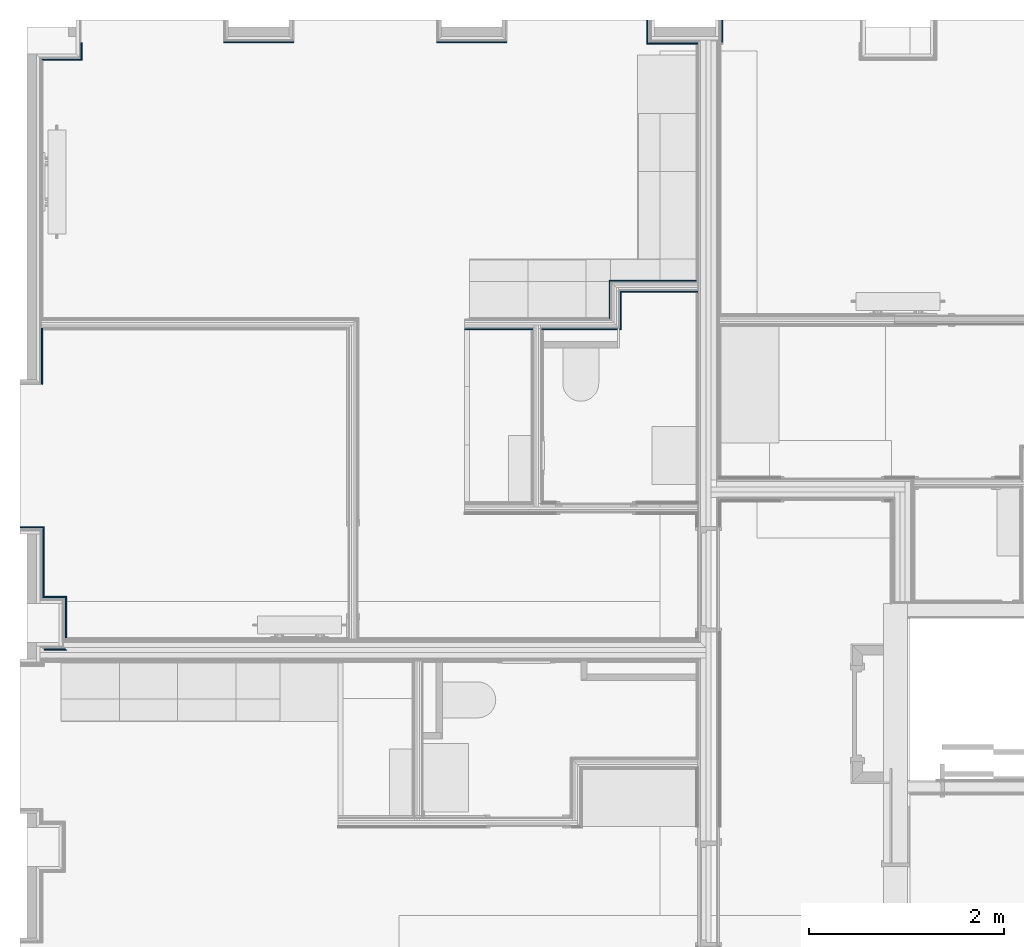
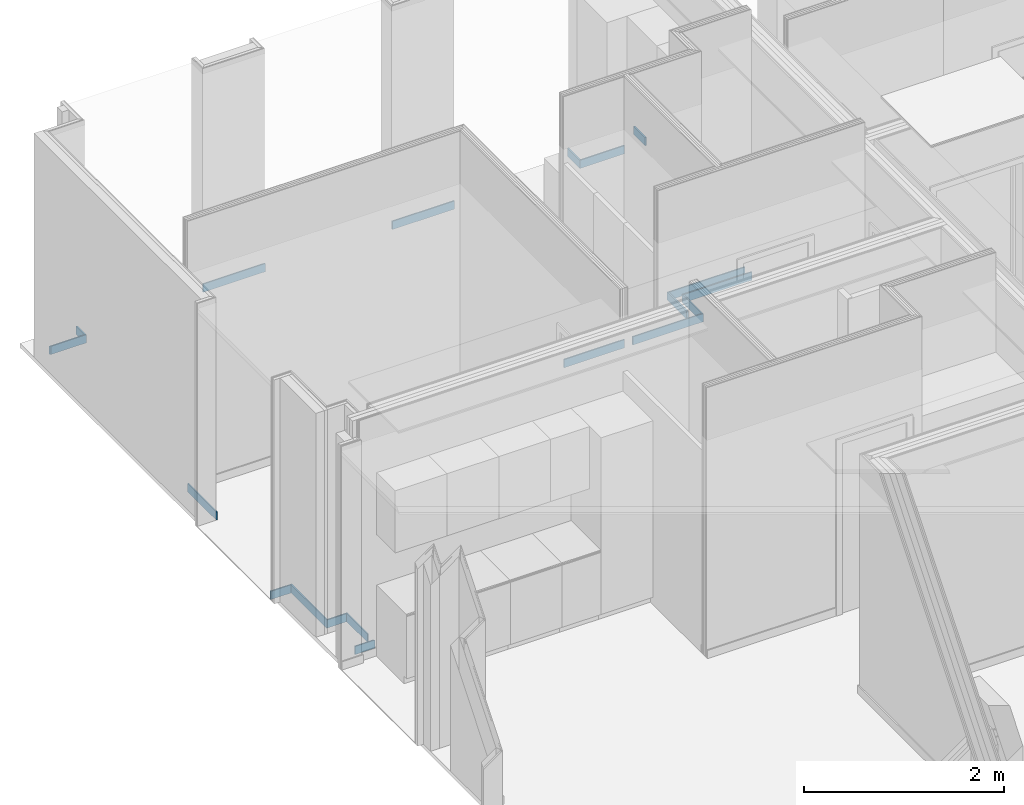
# One storey, part 34 of 65: 19 building element parts, 16 elements without a shape of their own.
"""IFC2X3 building model written with IfcOpenShell, lengths in metres."""

from ifc_helpers import new_model, entity, si_unit, converted_unit, derived_unit, money_unit, direction, frame, frame_2d, origin_with_axes, place, context, subcontext, project, spatial, polyline, rectangle, outline, extrude, material, type_object, element, aggregate, save


model = new_model("IFC2X3")

# Units and contexts
model_context = context("Model", 3, precision=1e-05, world=origin_with_axes(), true_north=direction((0.0, 1.0)))
body_context = subcontext(model_context, "Body", "Model", "MODEL_VIEW", scale=1.0)
ifc_project = project(units=[si_unit("LENGTHUNIT", "METRE"), si_unit("AREAUNIT", "SQUARE_METRE"), si_unit("VOLUMEUNIT", "CUBIC_METRE"), si_unit("ABSORBEDDOSEUNIT", "GRAY"), si_unit("AMOUNTOFSUBSTANCEUNIT", "MOLE"), si_unit("DOSEEQUIVALENTUNIT", "SIEVERT"), si_unit("ELECTRICCAPACITANCEUNIT", "FARAD"), si_unit("ELECTRICCHARGEUNIT", "COULOMB"), si_unit("ELECTRICCONDUCTANCEUNIT", "SIEMENS"), si_unit("ELECTRICCURRENTUNIT", "AMPERE"), si_unit("ELECTRICRESISTANCEUNIT", "OHM"), si_unit("ELECTRICVOLTAGEUNIT", "VOLT"), si_unit("ENERGYUNIT", "JOULE"), si_unit("FORCEUNIT", "NEWTON"), si_unit("FREQUENCYUNIT", "HERTZ"), si_unit("ILLUMINANCEUNIT", "LUX"), si_unit("INDUCTANCEUNIT", "HENRY"), si_unit("LUMINOUSFLUXUNIT", "LUMEN"), si_unit("LUMINOUSINTENSITYUNIT", "CANDELA"), si_unit("MAGNETICFLUXDENSITYUNIT", "TESLA"), si_unit("MAGNETICFLUXUNIT", "WEBER"), si_unit("MASSUNIT", "GRAM"), converted_unit("PLANEANGLEUNIT", "degree", entity("IfcReal", 0.0174532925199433), si_unit("PLANEANGLEUNIT", "RADIAN"), dimensions=[0, 0, 0, 0, 0, 0, 0]), si_unit("POWERUNIT", "WATT"), si_unit("PRESSUREUNIT", "PASCAL"), si_unit("RADIOACTIVITYUNIT", "BECQUEREL"), si_unit("SOLIDANGLEUNIT", "STERADIAN"), si_unit("THERMODYNAMICTEMPERATUREUNIT", "KELVIN"), si_unit("TIMEUNIT", "SECOND"), derived_unit("ACCELERATIONUNIT", [(si_unit("LENGTHUNIT", "METRE"), 1), (si_unit("TIMEUNIT", "SECOND"), -2)]), derived_unit("ANGULARVELOCITYUNIT", [(converted_unit("PLANEANGLEUNIT", "degree", entity("IfcReal", 0.0174532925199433), si_unit("PLANEANGLEUNIT", "RADIAN"), dimensions=[0, 0, 0, 0, 0, 0, 0]), 1), (si_unit("TIMEUNIT", "SECOND"), -1)]), derived_unit("CURVATUREUNIT", [(converted_unit("PLANEANGLEUNIT", "degree", entity("IfcReal", 0.0174532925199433), si_unit("PLANEANGLEUNIT", "RADIAN"), dimensions=[0, 0, 0, 0, 0, 0, 0]), 1), (si_unit("LENGTHUNIT", "METRE"), -1)]), derived_unit("DYNAMICVISCOSITYUNIT", [(si_unit("PRESSUREUNIT", "PASCAL"), 1), (si_unit("TIMEUNIT", "SECOND"), 1)]), derived_unit("HEATFLUXDENSITYUNIT", [(si_unit("POWERUNIT", "WATT"), 1), (si_unit("LENGTHUNIT", "METRE"), -2)]), derived_unit("HEATINGVALUEUNIT", [(si_unit("ENERGYUNIT", "JOULE"), 1), (si_unit("MASSUNIT", "GRAM"), -1)]), derived_unit("INTEGERCOUNTRATEUNIT", [(si_unit("TIMEUNIT", "SECOND"), -1)]), derived_unit("IONCONCENTRATIONUNIT", [(si_unit("MASSUNIT", "GRAM"), 1), (si_unit("VOLUMEUNIT", "CUBIC_METRE"), -1)]), derived_unit("ISOTHERMALMOISTURECAPACITYUNIT", [(si_unit("VOLUMEUNIT", "CUBIC_METRE"), 1), (si_unit("MASSUNIT", "GRAM"), -1)]), derived_unit("KINEMATICVISCOSITYUNIT", [(si_unit("AREAUNIT", "SQUARE_METRE"), 1), (si_unit("TIMEUNIT", "SECOND"), -1)]), derived_unit("LINEARFORCEUNIT", [(si_unit("FORCEUNIT", "NEWTON"), 1), (si_unit("LENGTHUNIT", "METRE"), -1)]), derived_unit("LINEARMOMENTUNIT", [(si_unit("FORCEUNIT", "NEWTON"), 1), (si_unit("LENGTHUNIT", "METRE"), -1)]), derived_unit("LINEARSTIFFNESSUNIT", [(si_unit("FORCEUNIT", "NEWTON"), 1), (si_unit("LENGTHUNIT", "METRE"), -1)]), derived_unit("LINEARVELOCITYUNIT", [(si_unit("LENGTHUNIT", "METRE"), 1), (si_unit("TIMEUNIT", "SECOND"), -1)]), derived_unit("LUMINOUSINTENSITYDISTRIBUTIONUNIT", [(si_unit("LUMINOUSINTENSITYUNIT", "CANDELA"), 1), (si_unit("LUMINOUSFLUXUNIT", "LUMEN"), -1)]), derived_unit("MASSDENSITYUNIT", [(si_unit("MASSUNIT", "GRAM"), 1), (si_unit("VOLUMEUNIT", "CUBIC_METRE"), -1)]), derived_unit("MASSFLOWRATEUNIT", [(si_unit("MASSUNIT", "GRAM"), 1), (si_unit("TIMEUNIT", "SECOND"), -1)]), derived_unit("MASSPERLENGTHUNIT", [(si_unit("MASSUNIT", "GRAM"), 1), (si_unit("LENGTHUNIT", "METRE"), -1)]), derived_unit("MODULUSOFELASTICITYUNIT", [(si_unit("FORCEUNIT", "NEWTON"), 1), (si_unit("AREAUNIT", "SQUARE_METRE"), -1)]), derived_unit("MODULUSOFLINEARSUBGRADEREACTIONUNIT", [(si_unit("FORCEUNIT", "NEWTON"), 1), (si_unit("LENGTHUNIT", "METRE"), -2)]), derived_unit("MODULUSOFROTATIONALSUBGRADEREACTIONUNIT", [(si_unit("FORCEUNIT", "NEWTON"), 1), (si_unit("LENGTHUNIT", "METRE"), 1)]), derived_unit("MODULUSOFSUBGRADEREACTIONUNIT", [(si_unit("FORCEUNIT", "NEWTON"), 1), (si_unit("VOLUMEUNIT", "CUBIC_METRE"), -1)]), derived_unit("MOISTUREDIFFUSIVITYUNIT", [(si_unit("VOLUMEUNIT", "CUBIC_METRE"), 1), (si_unit("TIMEUNIT", "SECOND"), -1)]), derived_unit("MOLECULARWEIGHTUNIT", [(si_unit("MASSUNIT", "GRAM"), 1), (si_unit("AMOUNTOFSUBSTANCEUNIT", "MOLE"), -1)]), derived_unit("PLANARFORCEUNIT", [(si_unit("FORCEUNIT", "NEWTON"), 1), (si_unit("LENGTHUNIT", "METRE"), -2)]), derived_unit("ROTATIONALFREQUENCYUNIT", [(si_unit("TIMEUNIT", "SECOND"), -1)]), derived_unit("ROTATIONALMASSUNIT", [(si_unit("MASSUNIT", "GRAM"), 1), (si_unit("LENGTHUNIT", "METRE"), 2)]), derived_unit("ROTATIONALSTIFFNESSUNIT", [(si_unit("FORCEUNIT", "NEWTON"), 1), (si_unit("LENGTHUNIT", "METRE"), 1), (converted_unit("PLANEANGLEUNIT", "degree", entity("IfcReal", 0.0174532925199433), si_unit("PLANEANGLEUNIT", "RADIAN"), dimensions=[0, 0, 0, 0, 0, 0, 0]), -1)]), derived_unit("SECTIONAREAINTEGRALUNIT", [(si_unit("LENGTHUNIT", "METRE"), 5)]), derived_unit("SECTIONMODULUSUNIT", [(si_unit("LENGTHUNIT", "METRE"), 3)]), derived_unit("SHEARMODULUSUNIT", [(si_unit("FORCEUNIT", "NEWTON"), 1), (si_unit("AREAUNIT", "SQUARE_METRE"), -1)]), derived_unit("SOUNDPOWERUNIT", [(si_unit("ENERGYUNIT", "JOULE"), 1), (si_unit("TIMEUNIT", "SECOND"), -1)]), derived_unit("SPECIFICHEATCAPACITYUNIT", [(si_unit("FORCEUNIT", "NEWTON"), 1), (si_unit("MASSUNIT", "GRAM"), -1), (si_unit("THERMODYNAMICTEMPERATUREUNIT", "KELVIN"), -1)]), derived_unit("TEMPERATUREGRADIENTUNIT", [(si_unit("THERMODYNAMICTEMPERATUREUNIT", "KELVIN"), 1), (si_unit("LENGTHUNIT", "METRE"), -1)]), derived_unit("THERMALADMITTANCEUNIT", [(si_unit("POWERUNIT", "WATT"), 1), (si_unit("AREAUNIT", "SQUARE_METRE"), -1), (si_unit("THERMODYNAMICTEMPERATUREUNIT", "KELVIN"), -1)]), derived_unit("THERMALCONDUCTANCEUNIT", [(si_unit("POWERUNIT", "WATT"), 1), (si_unit("LENGTHUNIT", "METRE"), -1), (si_unit("THERMODYNAMICTEMPERATUREUNIT", "KELVIN"), -1)]), derived_unit("THERMALEXPANSIONCOEFFICIENTUNIT", [(si_unit("THERMODYNAMICTEMPERATUREUNIT", "KELVIN"), -1)]), derived_unit("THERMALRESISTANCEUNIT", [(si_unit("AREAUNIT", "SQUARE_METRE"), 1), (si_unit("POWERUNIT", "WATT"), -1)]), derived_unit("THERMALTRANSMITTANCEUNIT", [(si_unit("POWERUNIT", "WATT"), 1), (si_unit("AREAUNIT", "SQUARE_METRE"), -1), (si_unit("THERMODYNAMICTEMPERATUREUNIT", "KELVIN"), -1)]), derived_unit("TORQUEUNIT", [(si_unit("FORCEUNIT", "NEWTON"), 1), (si_unit("LENGTHUNIT", "METRE"), 1)]), derived_unit("VAPORPERMEABILITYUNIT", [(si_unit("MASSUNIT", "GRAM"), 1), (si_unit("TIMEUNIT", "SECOND"), -1)]), derived_unit("VOLUMETRICFLOWRATEUNIT", [(si_unit("VOLUMEUNIT", "CUBIC_METRE"), 1), (si_unit("TIMEUNIT", "SECOND"), -1)]), derived_unit("WARPINGCONSTANTUNIT", [(si_unit("LENGTHUNIT", "METRE"), 6)]), derived_unit("WARPINGMOMENTUNIT", [(si_unit("FORCEUNIT", "NEWTON"), 1), (si_unit("LENGTHUNIT", "METRE"), 2)]), money_unit("GBP")], contexts=[model_context])

# Site, building, storey
site_placement = place(None, origin_with_axes())
site = spatial("IfcSite", under=ifc_project, at=site_placement, Name="Site", CompositionType="ELEMENT")
building_placement = place(site_placement, origin_with_axes())
building = spatial("IfcBuilding", under=site, at=building_placement, Name="Building01", CompositionType="ELEMENT")
storey_placement = place(building_placement, frame((0.0, 0.0, 8.64), z_axis=(0.0, 0.0, 1.0), x_axis=(1.0, 0.0, 0.0)))
storey = spatial("IfcBuildingStorey", under=building, at=storey_placement, Name="2F", CompositionType="ELEMENT", Elevation=8.64)

# Wall, building element part
wall_type_1 = type_object("IfcWallType", Name="SHE_A-Walls_Type06d_ExternalWallInsulation_48mm", PredefinedType="NOTDEFINED")
wall_1_placement = place(storey_placement, frame((0.677, 14.8, 0.0), z_axis=(0.0, 0.0, 1.0), x_axis=(0.0, -1.0, 0.0)))
wall_1 = element("IfcWall", 1, at=wall_1_placement, inside=storey, type_object=wall_type_1, Name="6D", ObjectType="SHE_A-Walls_Type06d_ExternalWallInsulation_48mm")
ifc_material = material(Name="A_BSUK_Walls_Timber")
building_element_part_1_placement = place(wall_1_placement, origin_with_axes())
building_element_part_1 = element("IfcBuildingElementPart", 2, at=building_element_part_1_placement, material=ifc_material, Name="3", context=body_context, shape_type="SweptSolid", body=[
    extrude(outline(polyline([(0.413, 0.063), (0.233, 0.063), (0.233, 0.048), (0.398, 0.048), (0.413, 0.063)])), frame((0.0, 0.0, 0.015), z_axis=(0.0, 0.0, 1.0), x_axis=(1.0, 0.0, 0.0)), (0.0, 0.0, 1.0), 0.1),
])
aggregate(wall_1, [building_element_part_1])

wall_2_placement = place(storey_placement, frame((0.677, 14.45, 0.0), z_axis=(0.0, 0.0, 1.0), x_axis=(-1.0, 0.0, 0.0)))
wall_2 = element("IfcWall", 3, at=wall_2_placement, inside=storey, type_object=wall_type_1, Name="6D", ObjectType="SHE_A-Walls_Type06d_ExternalWallInsulation_48mm")
building_element_part_2_placement = place(wall_2_placement, origin_with_axes())
building_element_part_2 = element("IfcBuildingElementPart", 4, at=building_element_part_2_placement, material=ifc_material, Name="3", context=body_context, shape_type="SweptSolid", body=[
    extrude(outline(polyline([(0.344, 0.063), (-0.063, 0.063), (-0.048, 0.048), (0.359, 0.048), (0.344, 0.063)])), frame((0.0, 0.0, 0.015), z_axis=(0.0, 0.0, 1.0), x_axis=(1.0, 0.0, 0.0)), (0.0, 0.0, 1.0), 0.1),
])
aggregate(wall_2, [building_element_part_2])

wall_3_placement = place(storey_placement, frame((2.867, 14.63, 0.0), z_axis=(0.0, 0.0, 1.0), x_axis=(-1.0, 0.0, 0.0)))
wall_3 = element("IfcWall", 5, at=wall_3_placement, inside=storey, type_object=wall_type_1, Name="6D", ObjectType="SHE_A-Walls_Type06d_ExternalWallInsulation_48mm")
building_element_part_3_placement = place(wall_3_placement, origin_with_axes())
building_element_part_3 = element("IfcBuildingElementPart", 6, at=building_element_part_3_placement, material=ifc_material, Name="3", context=body_context, shape_type="SweptSolid", body=[
    extrude(rectangle(XDim=0.72, YDim=0.015, at=frame_2d((0.312, 0.0555), x_axis=(1.0, 0.0))), frame((0.0, 0.0, 0.015), z_axis=(0.0, 0.0, 1.0), x_axis=(1.0, 0.0, 0.0)), (0.0, 0.0, 1.0), 0.1),
])
aggregate(wall_3, [building_element_part_3])

wall_4_placement = place(storey_placement, frame((5.057, 14.63, 0.0), z_axis=(0.0, 0.0, 1.0), x_axis=(-1.0, 0.0, 0.0)))
wall_4 = element("IfcWall", 7, at=wall_4_placement, inside=storey, type_object=wall_type_1, Name="6D", ObjectType="SHE_A-Walls_Type06d_ExternalWallInsulation_48mm")
building_element_part_4_placement = place(wall_4_placement, origin_with_axes())
building_element_part_4 = element("IfcBuildingElementPart", 8, at=building_element_part_4_placement, material=ifc_material, Name="3", context=body_context, shape_type="SweptSolid", body=[
    extrude(rectangle(XDim=0.72, YDim=0.015, at=frame_2d((0.312, 0.0555), x_axis=(1.0, 0.0))), frame((0.0, 0.0, 0.015), z_axis=(0.0, 0.0, 1.0), x_axis=(1.0, 0.0, 0.0)), (0.0, 0.0, 1.0), 0.1),
])
aggregate(wall_4, [building_element_part_4])

wall_5_placement = place(storey_placement, frame((0.27, 14.45, 0.0), z_axis=(0.0, 0.0, 1.0), x_axis=(0.0, -1.0, 0.0)))
wall_5 = element("IfcWall", 9, at=wall_5_placement, inside=storey, type_object=wall_type_1, Name="6D", ObjectType="SHE_A-Walls_Type06d_ExternalWallInsulation_48mm")
building_element_part_5_placement = place(wall_5_placement, origin_with_axes())
building_element_part_5 = element("IfcBuildingElementPart", 10, at=building_element_part_5_placement, material=ifc_material, Name="4", context=body_context, shape_type="SweptSolid", body=[
    extrude(rectangle(XDim=0.015, YDim=0.57567, at=frame_2d((3.107165, 0.0555), x_axis=(0.0, -1.0))), frame((0.0, 0.0, 0.015), z_axis=(0.0, 0.0, 1.0), x_axis=(1.0, 0.0, 0.0)), (0.0, 0.0, 1.0), 0.1),
])
aggregate(wall_5, [building_element_part_5])

# Wall, building element parts
wall_type_2 = type_object("IfcWallType", Name="SHE_A-Walls_Type05a_Partition_95mm_tall", PredefinedType="NOTDEFINED")
wall_6_placement = place(storey_placement, frame((6.229669, 11.66567, 0.0), z_axis=(0.0, 0.0, 1.0), x_axis=(0.0, 1.0, 0.0)))
wall_6 = element("IfcWall", 11, at=wall_6_placement, inside=storey, type_object=wall_type_2, Name="5A", ObjectType="SHE_A-Walls_Type05a_Partition_95mm_tall")
placement_1 = place(wall_6_placement, origin_with_axes())
building_element_part_6 = element("IfcBuildingElementPart", 12, at=placement_1, material=ifc_material, Name="1", context=body_context, shape_type="SweptSolid", body=[
    extrude(outline(polyline([(0.35, -0.035), (-0.035, -0.035), (-0.05, -0.05), (0.335, -0.05), (0.35, -0.035)])), frame((0.0, 0.0, 0.015), z_axis=(0.0, 0.0, 1.0), x_axis=(1.0, 0.0, 0.0)), (0.0, 0.0, 1.0), 0.1),
])
building_element_part_7 = element("IfcBuildingElementPart", 13, at=placement_1, material=ifc_material, Name="7", context=body_context, shape_type="SweptSolid", body=[
    extrude(outline(polyline([(0.46, 0.075), (0.075, 0.075), (0.06, 0.06), (0.445, 0.06), (0.46, 0.075)])), frame((0.0, 0.0, 0.015), z_axis=(0.0, 0.0, 1.0), x_axis=(1.0, 0.0, 0.0)), (0.0, 0.0, 1.0), 0.1),
])
aggregate(wall_6, [building_element_part_6, building_element_part_7])

wall_7_placement = place(storey_placement, frame((6.229669, 12.05067, 0.0), z_axis=(0.0, 0.0, 1.0), x_axis=(1.0, 0.0, 0.0)))
wall_7 = element("IfcWall", 14, at=wall_7_placement, inside=storey, type_object=wall_type_2, Name="5A", ObjectType="SHE_A-Walls_Type05a_Partition_95mm_tall")
placement_2 = place(wall_7_placement, origin_with_axes())
building_element_part_8 = element("IfcBuildingElementPart", 15, at=placement_2, material=ifc_material, Name="1", context=body_context, shape_type="SweptSolid", body=[
    extrude(outline(polyline([(0.835, -0.035), (0.035, -0.035), (0.05, -0.05), (0.835, -0.05), (0.835, -0.035)])), frame((0.0, 0.0, 0.015), z_axis=(0.0, 0.0, 1.0), x_axis=(1.0, 0.0, 0.0)), (0.0, 0.0, 1.0), 0.1),
])
building_element_part_9 = element("IfcBuildingElementPart", 16, at=placement_2, material=ifc_material, Name="7", context=body_context, shape_type="SweptSolid", body=[
    extrude(outline(polyline([(0.82, 0.075), (-0.075, 0.075), (-0.06, 0.06), (0.82, 0.06), (0.82, 0.075)])), frame((0.0, 0.0, 0.015), z_axis=(0.0, 0.0, 1.0), x_axis=(1.0, 0.0, 0.0)), (0.0, 0.0, 1.0), 0.1),
])
aggregate(wall_7, [building_element_part_8, building_element_part_9])

wall_8_placement = place(storey_placement, frame((4.669669, 11.66567, 0.0), z_axis=(0.0, 0.0, 1.0), x_axis=(1.0, 0.0, 0.0)))
wall_8 = element("IfcWall", 17, at=wall_8_placement, inside=storey, type_object=wall_type_2, Name="5A", ObjectType="SHE_A-Walls_Type05a_Partition_95mm_tall")
placement_3 = place(wall_8_placement, origin_with_axes())
building_element_part_10 = element("IfcBuildingElementPart", 18, at=placement_3, material=ifc_material, Name="1", context=body_context, shape_type="SweptSolid", body=[
    extrude(rectangle(XDim=0.7, YDim=0.015, at=frame_2d((0.35, -0.0425), x_axis=(-1.0, 0.0))), frame((0.0, 0.0, 0.015), z_axis=(0.0, 0.0, 1.0), x_axis=(1.0, 0.0, 0.0)), (0.0, 0.0, 1.0), 0.1),
])
building_element_part_11 = element("IfcBuildingElementPart", 19, at=placement_3, material=ifc_material, Name="2", context=body_context, shape_type="SweptSolid", body=[
    extrude(outline(polyline([(1.595, -0.035), (0.795, -0.035), (0.795, -0.05), (1.61, -0.05), (1.595, -0.035)])), frame((0.0, 0.0, 0.015), z_axis=(0.0, 0.0, 1.0), x_axis=(1.0, 0.0, 0.0)), (0.0, 0.0, 1.0), 0.1),
])
aggregate(wall_8, [building_element_part_10, building_element_part_11])

# Wall, building element part
wall_type_3 = type_object("IfcWallType", Name="SHE_A-Walls_Type06f_ExternalWallInsulation_48+15mm", PredefinedType="NOTDEFINED")
wall_9_placement = place(storey_placement, frame((7.247, 14.63, 0.0), z_axis=(0.0, 0.0, 1.0), x_axis=(0.0, 1.0, 0.0)))
wall_9 = element("IfcWall", 20, at=wall_9_placement, inside=storey, type_object=wall_type_3, Name="6F", ObjectType="SHE_A-Walls_Type06f_ExternalWallInsulation_48+15mm")
building_element_part_12_placement = place(wall_9_placement, origin_with_axes())
building_element_part_12 = element("IfcBuildingElementPart", 21, at=building_element_part_12_placement, material=ifc_material, Name="1", context=body_context, shape_type="SweptSolid", body=[
    extrude(rectangle(XDim=0.233, YDim=0.015, at=frame_2d((0.0535, -0.0705), x_axis=(-1.0, 0.0))), frame((0.0, 0.0, 0.015), z_axis=(0.0, 0.0, 1.0), x_axis=(1.0, 0.0, 0.0)), (0.0, 0.0, 1.0), 0.1),
])
aggregate(wall_9, [building_element_part_12])

wall_10_placement = place(storey_placement, frame((6.622876, 14.63, 0.0), z_axis=(0.0, 0.0, 1.0), x_axis=(0.0, 1.0, 0.0)))
wall_10 = element("IfcWall", 22, at=wall_10_placement, inside=storey, type_object=wall_type_3, Name="6F", ObjectType="SHE_A-Walls_Type06f_ExternalWallInsulation_48+15mm")
building_element_part_13_placement = place(wall_10_placement, origin_with_axes())
building_element_part_13 = element("IfcBuildingElementPart", 23, at=building_element_part_13_placement, material=ifc_material, Name="4", context=body_context, shape_type="SweptSolid", body=[
    extrude(outline(polyline([(0.17, 0.078), (-0.078, 0.078), (-0.063, 0.063), (0.17, 0.063), (0.17, 0.078)])), frame((0.0, 0.0, 0.015), z_axis=(0.0, 0.0, 1.0), x_axis=(1.0, 0.0, 0.0)), (0.0, 0.0, 1.0), 0.1),
])
aggregate(wall_10, [building_element_part_13])

wall_11_placement = place(storey_placement, frame((7.283, 14.63, 0.0), z_axis=(0.0, 0.0, 1.0), x_axis=(-1.0, 0.0, 0.0)))
wall_11 = element("IfcWall", 24, at=wall_11_placement, inside=storey, type_object=wall_type_3, Name="6F", ObjectType="SHE_A-Walls_Type06f_ExternalWallInsulation_48+15mm")
building_element_part_14_placement = place(wall_11_placement, origin_with_axes())
building_element_part_14 = element("IfcBuildingElementPart", 25, at=building_element_part_14_placement, material=ifc_material, Name="7", context=body_context, shape_type="SweptSolid", body=[
    extrude(outline(polyline([(0.738124, 0.078), (0.218331, 0.078), (0.218331, 0.063), (0.723124, 0.063), (0.738124, 0.078)])), frame((0.0, 0.0, 0.015), z_axis=(0.0, 0.0, 1.0), x_axis=(1.0, 0.0, 0.0)), (0.0, 0.0, 1.0), 0.1),
])
aggregate(wall_11, [building_element_part_14])

wall_12_placement = place(storey_placement, frame((0.5, 8.4, 0.0), z_axis=(0.0, 0.0, 1.0), x_axis=(1.0, 0.0, 0.0)))
wall_12 = element("IfcWall", 26, at=wall_12_placement, inside=storey, type_object=wall_type_3, Name="6F", ObjectType="SHE_A-Walls_Type06f_ExternalWallInsulation_48+15mm")
building_element_part_15_placement = place(wall_12_placement, origin_with_axes())
building_element_part_15 = element("IfcBuildingElementPart", 27, at=building_element_part_15_placement, material=ifc_material, Name="1", context=body_context, shape_type="SweptSolid", body=[
    extrude(outline(polyline([(-0.152, -0.078), (0.078, -0.078), (0.063, -0.063), (-0.152, -0.063), (-0.152, -0.078)])), frame((0.0, 0.0, 0.015), z_axis=(0.0, 0.0, 1.0), x_axis=(1.0, 0.0, 0.0)), (0.0, 0.0, 1.0), 0.1),
])
aggregate(wall_12, [building_element_part_15])

wall_13_placement = place(storey_placement, frame((0.5, 8.8, 0.0), z_axis=(0.0, 0.0, 1.0), x_axis=(0.0, 1.0, 0.0)))
wall_13 = element("IfcWall", 28, at=wall_13_placement, inside=storey, type_object=wall_type_3, Name="6F", ObjectType="SHE_A-Walls_Type06f_ExternalWallInsulation_48+15mm")
building_element_part_16_placement = place(wall_13_placement, origin_with_axes())
building_element_part_16 = element("IfcBuildingElementPart", 29, at=building_element_part_16_placement, material=ifc_material, Name="1", context=body_context, shape_type="SweptSolid", body=[
    extrude(outline(polyline([(-0.34933, -0.078), (0.078, -0.078), (0.063, -0.063), (-0.34933, -0.063), (-0.34933, -0.078)])), frame((0.0, 0.0, 0.015), z_axis=(0.0, 0.0, 1.0), x_axis=(1.0, 0.0, 0.0)), (0.0, 0.0, 1.0), 0.1),
])
aggregate(wall_13, [building_element_part_16])

wall_14_placement = place(storey_placement, frame((0.306, 8.8, 0.0), z_axis=(0.0, 0.0, 1.0), x_axis=(-1.0, 0.0, 0.0)))
wall_14 = element("IfcWall", 30, at=wall_14_placement, inside=storey, type_object=wall_type_3, Name="6F", ObjectType="SHE_A-Walls_Type06f_ExternalWallInsulation_48+15mm")
building_element_part_17_placement = place(wall_14_placement, origin_with_axes())
building_element_part_17 = element("IfcBuildingElementPart", 31, at=building_element_part_17_placement, material=ifc_material, Name="1", context=body_context, shape_type="SweptSolid", body=[
    extrude(outline(polyline([(-0.272, -0.078), (-0.042, -0.078), (-0.027, -0.063), (-0.257, -0.063), (-0.272, -0.078)])), frame((0.0, 0.0, 0.015), z_axis=(0.0, 0.0, 1.0), x_axis=(1.0, 0.0, 0.0)), (0.0, 0.0, 1.0), 0.1),
])
aggregate(wall_14, [building_element_part_17])

wall_15_placement = place(storey_placement, frame((0.27, 9.51418, 0.0), z_axis=(0.0, 0.0, 1.0), x_axis=(0.0, 1.0, 0.0)))
wall_15 = element("IfcWall", 32, at=wall_15_placement, inside=storey, type_object=wall_type_3, Name="6F", ObjectType="SHE_A-Walls_Type06f_ExternalWallInsulation_48+15mm")
building_element_part_18_placement = place(wall_15_placement, origin_with_axes())
building_element_part_18 = element("IfcBuildingElementPart", 33, at=building_element_part_18_placement, material=ifc_material, Name="1", context=body_context, shape_type="SweptSolid", body=[
    extrude(outline(polyline([(-0.63618, -0.078), (0.078, -0.078), (0.063, -0.063), (-0.65118, -0.063), (-0.63618, -0.078)])), frame((0.0, 0.0, 0.015), z_axis=(0.0, 0.0, 1.0), x_axis=(1.0, 0.0, 0.0)), (0.0, 0.0, 1.0), 0.1),
])
aggregate(wall_15, [building_element_part_18])

wall_16_placement = place(storey_placement, frame((0.1, 9.51418, 0.0), z_axis=(0.0, 0.0, 1.0), x_axis=(-1.0, 0.0, 0.0)))
wall_16 = element("IfcWall", 34, at=wall_16_placement, inside=storey, type_object=wall_type_3, Name="6F", ObjectType="SHE_A-Walls_Type06f_ExternalWallInsulation_48+15mm")
building_element_part_19_placement = place(wall_16_placement, origin_with_axes())
building_element_part_19 = element("IfcBuildingElementPart", 35, at=building_element_part_19_placement, material=ifc_material, Name="1", context=body_context, shape_type="SweptSolid", body=[
    extrude(outline(polyline([(-0.248, -0.078), (0.0, -0.078), (0.0, -0.063), (-0.233, -0.063), (-0.248, -0.078)])), frame((0.0, 0.0, 0.015), z_axis=(0.0, 0.0, 1.0), x_axis=(1.0, 0.0, 0.0)), (0.0, 0.0, 1.0), 0.1),
])
aggregate(wall_16, [building_element_part_19])

save(model, "model.ifc")
